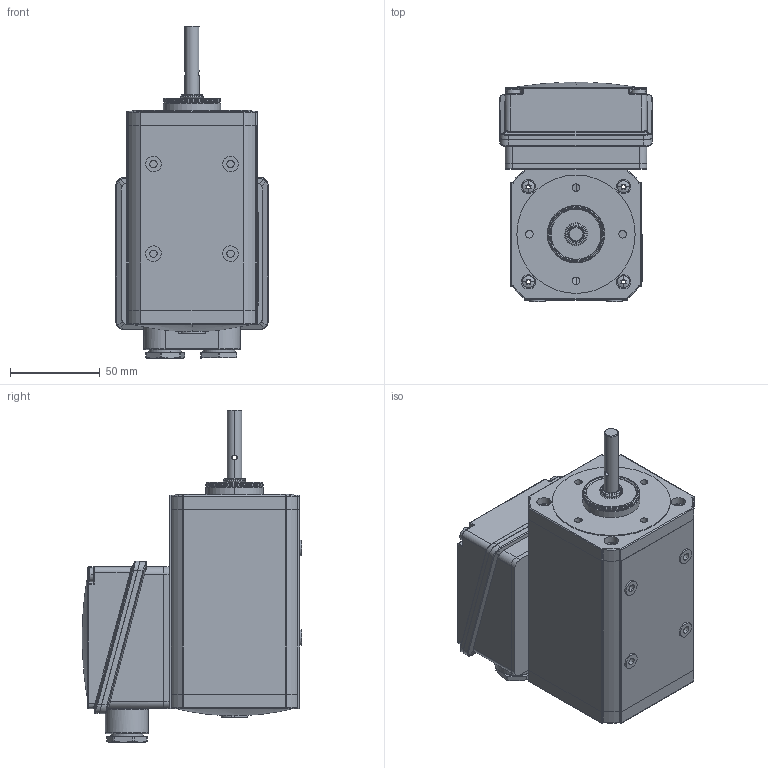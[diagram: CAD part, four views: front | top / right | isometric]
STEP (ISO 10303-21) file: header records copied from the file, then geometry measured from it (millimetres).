
FILE_DESCRIPTION (( 'STEP AP214' ), '1' );
FILE_NAME ('Motor IGKU65-40, f.Getr. VE31.STEP', '2017-04-10T09:39:43', ( 'gfeller' ), ( '' ), 'SwSTEP 2.0', 'SolidWorks 2014', '' );
FILE_SCHEMA (( 'AUTOMOTIVE_DESIGN' ));
Length unit declared in the file: millimetre
Products named in the file (1): Motor IGKU65-40, f.Getr. VE31
Bounding box: 85 x 122.43 x 185.18 mm (x, y, z)
Surface area: 81891.6 mm2 (no closed solid volume)
Topology: 0 solids, 39 shells, 699 faces, 2276 edges, 1560 vertices
Faces by surface type: plane 266, cylinder 228, bspline 57, cone 52, torus 51, sphere 45
Entity records: 37540 total; most frequent: CARTESIAN_POINT 10601, DIRECTION 4124, ORIENTED_EDGE 3619, EDGE_CURVE 2248, AXIS2_PLACEMENT_3D 1566, VERTEX_POINT 1556, VECTOR 992, LINE 992
